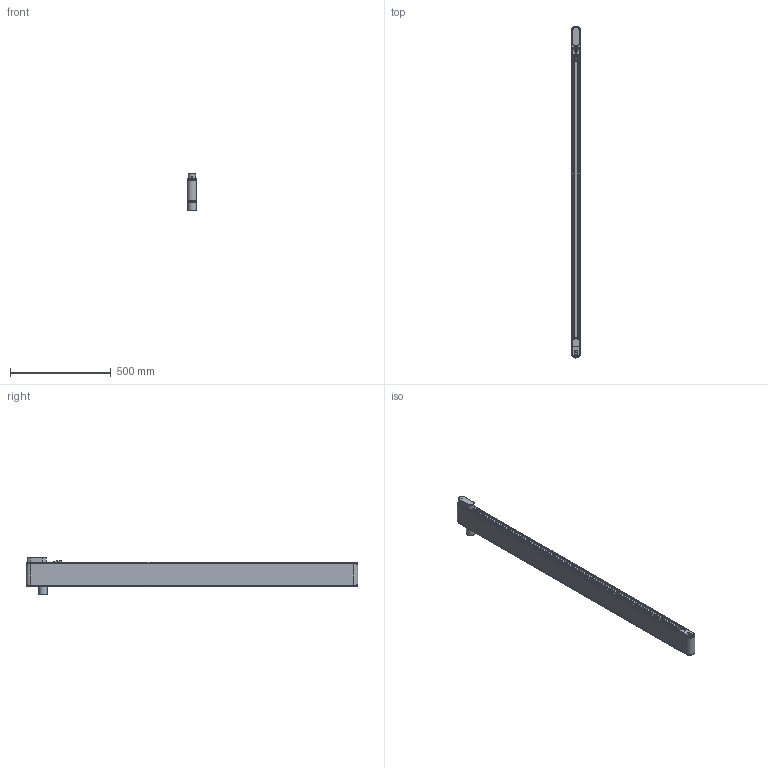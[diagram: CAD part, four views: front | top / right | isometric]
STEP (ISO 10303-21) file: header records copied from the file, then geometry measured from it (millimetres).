
FILE_DESCRIPTION(/* description */ (''),/* implementation_level */ '2;1');
FILE_NAME(/* name */ 'G:\DATEN\CAD\Förderband\Marketing\3D-Modelle (Standard)\FR-40-120-Q\FR-40-120-Q-1600-K (Motorendrohr 40 mm).stp',/* time_stamp */ '2019-05-09T08:39:04+02:00',/* author */ ('melanie.ochs'),/* organization */ (''),/* preprocessor_version */ 'ST-DEVELOPER v17',/* originating_system */ 'Autodesk Inventor 2019',/* authorisation */ '');
FILE_SCHEMA (('CONFIG_CONTROL_DESIGN'));
Length unit declared in the file: centimetre
Products named in the file (1): FR-40-120-Q-1600-K (Motorendrohr 40 mm)
Bounding box: 46.6 x 1646.6 x 185 mm (x, y, z)
Volume: 2924856.5 mm3; surface area: 2073147.5 mm2
Topology: 31 solids, 32 shells, 901 faces, 2443 edges, 1664 vertices
Faces by surface type: plane 447, cylinder 290, cone 73, bspline 61, torus 30
Full cylindrical faces by diameter (mm): 1 x6, 4 x6, 4.3 x4, 4.65 x1, 4.917 x1, 5 x11, 5.5 x8, 6 x2, 6.5 x1, 6.773 x1, 6.917 x2, 8 x7, 8.3 x24, 8.5 x8, 8.773 x1, 10 x1, 11 x1, 12 x3, 25 x2, 28 x4, 40.917 x1, 42 x1, 44 x2
Entity records: 30277 total; most frequent: CARTESIAN_POINT 6347, ORIENTED_EDGE 4850, DIRECTION 4742, EDGE_CURVE 2425, AXIS2_PLACEMENT_3D 1733, VERTEX_POINT 1664, LINE 1276, VECTOR 1276
